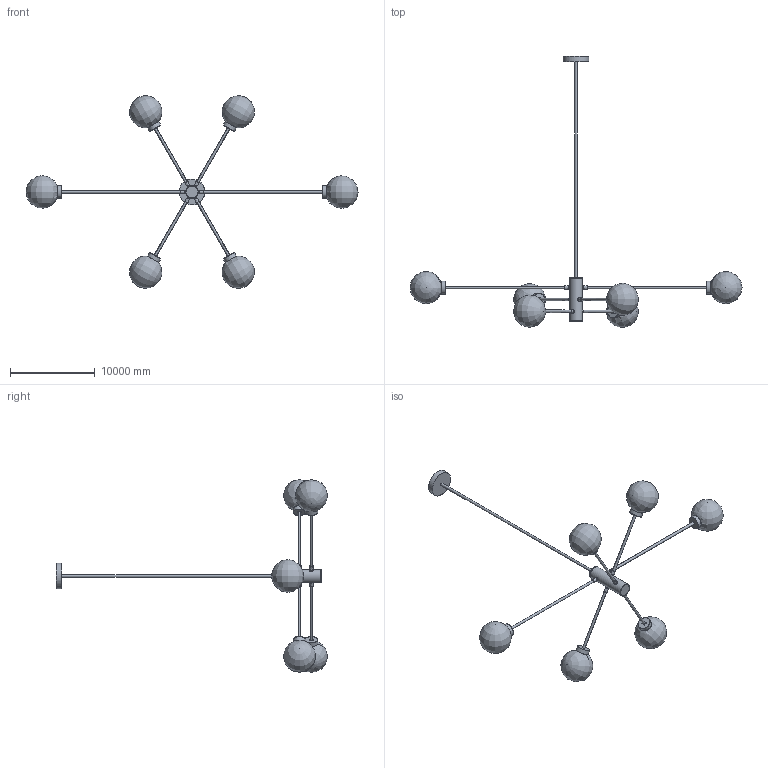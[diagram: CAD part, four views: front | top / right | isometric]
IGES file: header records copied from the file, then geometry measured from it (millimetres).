
Global section: file name: Trevi Chandelier-6heads; native system: AutoCAD 2022 - 简体中文 (Simplified Chinese),62HAuto; preprocessor: desk Translation Framework DWG producer (atf_dwg_producer); organization: unknown; date: 20250801.171436; units: inch
Bounding box: 39095.88 x 31927.8 x 22674.04 mm (x, y, z)
Volume: 13119846826.5 mm3; surface area: 856533940.6 mm2
Topology: 47 solids, 47 shells, 534 faces, 1324 edges, 888 vertices
Faces by surface type: bspline 534
